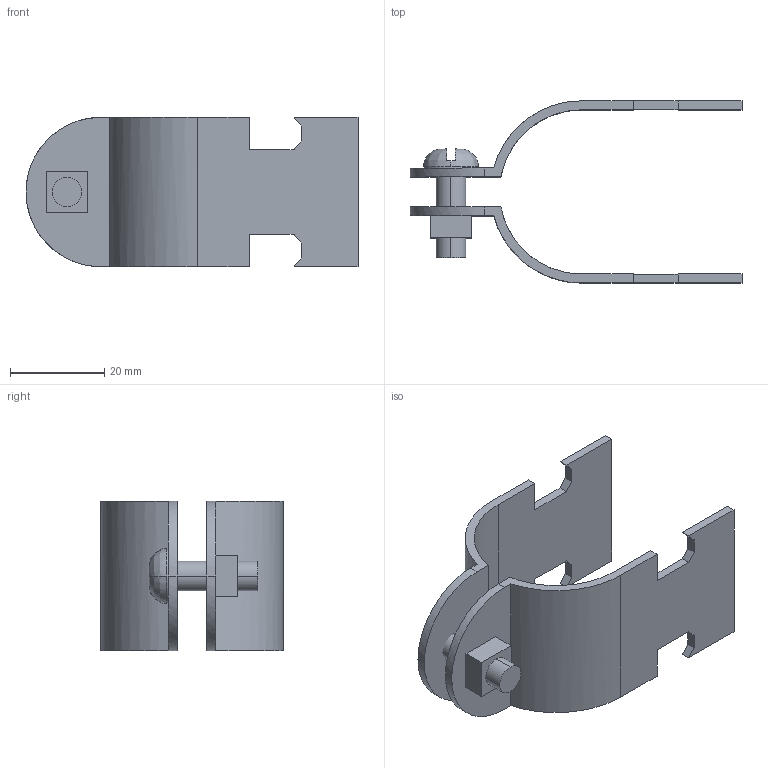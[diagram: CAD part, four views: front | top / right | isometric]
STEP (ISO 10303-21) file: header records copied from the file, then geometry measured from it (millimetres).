
FILE_DESCRIPTION(('TurboCAD Mac Pro'),'Build 980');
FILE_NAME('P2033.stp',' ',(''),(''),'ACIS Interop','IMSI','TurboCAD Mac Pro BY IMSI, INCORPORATED');
FILE_SCHEMA(('automotive_design'));
Length unit declared in the file: inch
Products named in the file (5): 1; 2; 3; 4; 5
Bounding box: 70.6 x 38.72 x 31.74 mm (x, y, z)
Volume: 9507.6 mm3; surface area: 10780.6 mm2
Topology: 4 solids, 4 shells, 75 faces, 194 edges, 128 vertices
Faces by surface type: plane 51, bspline 24
Entity records: 3595 total; most frequent: CARTESIAN_POINT 1138, ORIENTED_EDGE 388, DIRECTION 262, EDGE_CURVE 194, LINE 142, VECTOR 142, VERTEX_POINT 128, STYLED_ITEM 87
